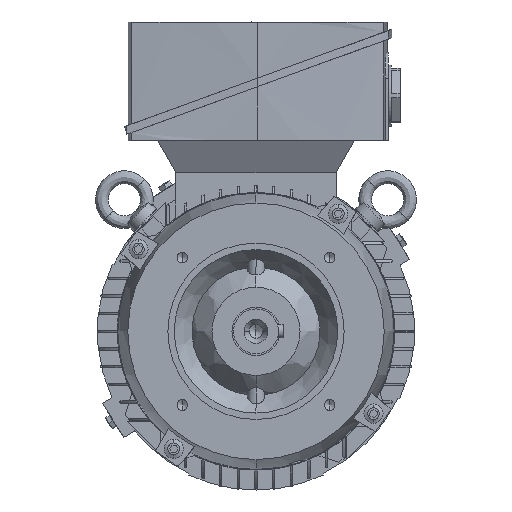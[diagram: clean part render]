
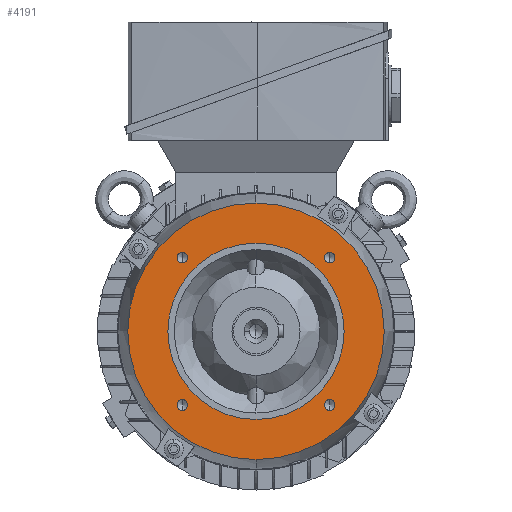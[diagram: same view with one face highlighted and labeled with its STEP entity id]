
A CAD part, left-side view. The second image highlights one B-rep face of the part: STEP entity #4191.
In plain terms, the highlighted planar face has unit normal (-1, 0, 0).
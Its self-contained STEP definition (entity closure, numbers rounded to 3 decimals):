
#1315 = VERTEX_POINT ( 'NONE', #28011 ) ;
#1544 = CARTESIAN_POINT ( 'NONE',  ( -40.5, -45.962, -45.962 ) ) ;
#1593 = DIRECTION ( 'NONE',  ( 1., 0., 0. ) ) ;
#1663 = DIRECTION ( 'NONE',  ( 0., 0., -1. ) ) ;
#2089 = EDGE_CURVE ( 'NONE', #5454, #9584, #31648, .T. ) ;
#4065 = ORIENTED_EDGE ( 'NONE', *, *, #23832, .T. ) ;
#4191 = ADVANCED_FACE ( 'NONE', ( #11990, #14347, #8338, #11494, #10056, #10017 ), #22977, .T. ) ;
#4295 = ORIENTED_EDGE ( 'NONE', *, *, #10546, .F. ) ;
#4409 = EDGE_LOOP ( 'NONE', ( #4065, #5353 ) ) ;
#4645 = DIRECTION ( 'NONE',  ( 0., 0., -1. ) ) ;
#4693 = DIRECTION ( 'NONE',  ( 1., 0., 0. ) ) ;
#4727 = CARTESIAN_POINT ( 'NONE',  ( -40.5, -45.962, 45.962 ) ) ;
#4744 = CARTESIAN_POINT ( 'NONE',  ( -40.5, -45.962, -45.962 ) ) ;
#5307 = EDGE_LOOP ( 'NONE', ( #23512, #32421 ) ) ;
#5353 = ORIENTED_EDGE ( 'NONE', *, *, #37461, .T. ) ;
#5454 = VERTEX_POINT ( 'NONE', #40129 ) ;
#5903 = DIRECTION ( 'NONE',  ( 1., 0., 0. ) ) ;
#6245 = ORIENTED_EDGE ( 'NONE', *, *, #20953, .T. ) ;
#6329 = DIRECTION ( 'NONE',  ( 0., 0., -1. ) ) ;
#6608 = ORIENTED_EDGE ( 'NONE', *, *, #24269, .T. ) ;
#7147 = CARTESIAN_POINT ( 'NONE',  ( -40.5, 45.962, -42.637 ) ) ;
#7951 = AXIS2_PLACEMENT_3D ( 'NONE', #20094, #20087, #19977 ) ;
#8266 = CARTESIAN_POINT ( 'NONE',  ( -40.5, 0., 80. ) ) ;
#8338 = FACE_BOUND ( 'NONE', #4409, .T. ) ;
#9105 = CARTESIAN_POINT ( 'NONE',  ( -40.5, 45.962, -49.287 ) ) ;
#9267 = EDGE_LOOP ( 'NONE', ( #37310, #4295 ) ) ;
#9335 = CARTESIAN_POINT ( 'NONE',  ( -40.5, 0., -55. ) ) ;
#9508 = CIRCLE ( 'NONE', #39826, 3.325 ) ;
#9584 = VERTEX_POINT ( 'NONE', #8266 ) ;
#10017 = FACE_BOUND ( 'NONE', #11475, .T. ) ;
#10056 = FACE_BOUND ( 'NONE', #30446, .T. ) ;
#10151 = VERTEX_POINT ( 'NONE', #35643 ) ;
#10196 = CARTESIAN_POINT ( 'NONE',  ( -40.5, 0., 0. ) ) ;
#10546 = EDGE_CURVE ( 'NONE', #9584, #5454, #12232, .T. ) ;
#11475 = EDGE_LOOP ( 'NONE', ( #6608, #30468 ) ) ;
#11494 = FACE_BOUND ( 'NONE', #13429, .T. ) ;
#11990 = FACE_BOUND ( 'NONE', #5307, .T. ) ;
#12191 = DIRECTION ( 'NONE',  ( 0., 0., -1. ) ) ;
#12232 = CIRCLE ( 'NONE', #33587, 80. ) ;
#12238 = DIRECTION ( 'NONE',  ( 1., 0., 0. ) ) ;
#12249 = CARTESIAN_POINT ( 'NONE',  ( -40.5, 0., 0. ) ) ;
#12653 = VERTEX_POINT ( 'NONE', #7147 ) ;
#12666 = DIRECTION ( 'NONE',  ( 1., 0., 0. ) ) ;
#12669 = CIRCLE ( 'NONE', #22657, 3.325 ) ;
#12672 = CARTESIAN_POINT ( 'NONE',  ( -40.5, 45.962, 42.637 ) ) ;
#12914 = DIRECTION ( 'NONE',  ( 0., 0., 1. ) ) ;
#13429 = EDGE_LOOP ( 'NONE', ( #33755, #6245 ) ) ;
#13935 = ORIENTED_EDGE ( 'NONE', *, *, #24519, .T. ) ;
#14347 = FACE_OUTER_BOUND ( 'NONE', #9267, .T. ) ;
#14965 = AXIS2_PLACEMENT_3D ( 'NONE', #12249, #12238, #12191 ) ;
#15796 = ORIENTED_EDGE ( 'NONE', *, *, #20803, .T. ) ;
#16043 = EDGE_CURVE ( 'NONE', #17093, #35461, #26028, .T. ) ;
#16293 = VERTEX_POINT ( 'NONE', #12672 ) ;
#17093 = VERTEX_POINT ( 'NONE', #9335 ) ;
#17427 = VERTEX_POINT ( 'NONE', #33838 ) ;
#17855 = AXIS2_PLACEMENT_3D ( 'NONE', #22898, #22808, #22715 ) ;
#18140 = DIRECTION ( 'NONE',  ( 1., 0., 0. ) ) ;
#18274 = AXIS2_PLACEMENT_3D ( 'NONE', #10196, #12666, #12914 ) ;
#19977 = DIRECTION ( 'NONE',  ( 0., 0., 1. ) ) ;
#20074 = DIRECTION ( 'NONE',  ( 0., 0., -1. ) ) ;
#20087 = DIRECTION ( 'NONE',  ( 1., 0., 0. ) ) ;
#20094 = CARTESIAN_POINT ( 'NONE',  ( -40.5, 0., 0. ) ) ;
#20121 = EDGE_CURVE ( 'NONE', #35006, #30870, #40833, .T. ) ;
#20123 = DIRECTION ( 'NONE',  ( 1., 0., 0. ) ) ;
#20149 = CARTESIAN_POINT ( 'NONE',  ( -40.5, 45.962, 45.962 ) ) ;
#20704 = CIRCLE ( 'NONE', #23749, 3.325 ) ;
#20803 = EDGE_CURVE ( 'NONE', #17427, #10151, #9508, .T. ) ;
#20953 = EDGE_CURVE ( 'NONE', #12653, #29083, #34657, .T. ) ;
#21217 = AXIS2_PLACEMENT_3D ( 'NONE', #22114, #22077, #22035 ) ;
#22035 = DIRECTION ( 'NONE',  ( 0., 0., 1. ) ) ;
#22077 = DIRECTION ( 'NONE',  ( -1., 0., 0. ) ) ;
#22114 = CARTESIAN_POINT ( 'NONE',  ( -40.5, 0., 67.5 ) ) ;
#22657 = AXIS2_PLACEMENT_3D ( 'NONE', #23816, #18140, #36524 ) ;
#22715 = DIRECTION ( 'NONE',  ( 0., 0., -1. ) ) ;
#22808 = DIRECTION ( 'NONE',  ( 1., 0., 0. ) ) ;
#22898 = CARTESIAN_POINT ( 'NONE',  ( -40.5, 45.962, -45.962 ) ) ;
#22977 = PLANE ( 'NONE',  #21217 ) ;
#23310 = CIRCLE ( 'NONE', #24288, 3.325 ) ;
#23512 = ORIENTED_EDGE ( 'NONE', *, *, #39224, .T. ) ;
#23749 = AXIS2_PLACEMENT_3D ( 'NONE', #1544, #1593, #1663 ) ;
#23816 = CARTESIAN_POINT ( 'NONE',  ( -40.5, 45.962, 45.962 ) ) ;
#23832 = EDGE_CURVE ( 'NONE', #16293, #1315, #32205, .T. ) ;
#24269 = EDGE_CURVE ( 'NONE', #30870, #35006, #23310, .T. ) ;
#24288 = AXIS2_PLACEMENT_3D ( 'NONE', #4727, #4693, #4645 ) ;
#24361 = CARTESIAN_POINT ( 'NONE',  ( -40.5, -45.962, 45.962 ) ) ;
#24475 = CARTESIAN_POINT ( 'NONE',  ( -40.5, -45.962, 42.637 ) ) ;
#24519 = EDGE_CURVE ( 'NONE', #10151, #17427, #20704, .T. ) ;
#24548 = DIRECTION ( 'NONE',  ( 1., 0., 0. ) ) ;
#25072 = DIRECTION ( 'NONE',  ( 0., 0., -1. ) ) ;
#25456 = CIRCLE ( 'NONE', #17855, 3.325 ) ;
#26028 = CIRCLE ( 'NONE', #7951, 55. ) ;
#26265 = AXIS2_PLACEMENT_3D ( 'NONE', #20149, #20123, #20074 ) ;
#26314 = EDGE_CURVE ( 'NONE', #29083, #12653, #25456, .T. ) ;
#27168 = DIRECTION ( 'NONE',  ( 0., 0., -1. ) ) ;
#27222 = DIRECTION ( 'NONE',  ( 1., 0., 0. ) ) ;
#27255 = CARTESIAN_POINT ( 'NONE',  ( -40.5, 0., 0. ) ) ;
#27311 = AXIS2_PLACEMENT_3D ( 'NONE', #24361, #24548, #25072 ) ;
#28011 = CARTESIAN_POINT ( 'NONE',  ( -40.5, 45.962, 49.287 ) ) ;
#29083 = VERTEX_POINT ( 'NONE', #9105 ) ;
#29664 = CARTESIAN_POINT ( 'NONE',  ( -40.5, -45.962, 49.287 ) ) ;
#30446 = EDGE_LOOP ( 'NONE', ( #15796, #13935 ) ) ;
#30468 = ORIENTED_EDGE ( 'NONE', *, *, #20121, .T. ) ;
#30870 = VERTEX_POINT ( 'NONE', #24475 ) ;
#31648 = CIRCLE ( 'NONE', #14965, 80. ) ;
#32205 = CIRCLE ( 'NONE', #26265, 3.325 ) ;
#32362 = CARTESIAN_POINT ( 'NONE',  ( -40.5, 45.962, -45.962 ) ) ;
#32421 = ORIENTED_EDGE ( 'NONE', *, *, #16043, .T. ) ;
#33587 = AXIS2_PLACEMENT_3D ( 'NONE', #27255, #27222, #27168 ) ;
#33755 = ORIENTED_EDGE ( 'NONE', *, *, #26314, .T. ) ;
#33838 = CARTESIAN_POINT ( 'NONE',  ( -40.5, -45.962, -49.287 ) ) ;
#34657 = CIRCLE ( 'NONE', #38525, 3.325 ) ;
#34769 = CARTESIAN_POINT ( 'NONE',  ( -40.5, 0., 55. ) ) ;
#35006 = VERTEX_POINT ( 'NONE', #29664 ) ;
#35461 = VERTEX_POINT ( 'NONE', #34769 ) ;
#35643 = CARTESIAN_POINT ( 'NONE',  ( -40.5, -45.962, -42.637 ) ) ;
#36524 = DIRECTION ( 'NONE',  ( 0., 0., -1. ) ) ;
#37032 = CIRCLE ( 'NONE', #18274, 55. ) ;
#37310 = ORIENTED_EDGE ( 'NONE', *, *, #2089, .F. ) ;
#37461 = EDGE_CURVE ( 'NONE', #1315, #16293, #12669, .T. ) ;
#38525 = AXIS2_PLACEMENT_3D ( 'NONE', #32362, #40204, #40357 ) ;
#39224 = EDGE_CURVE ( 'NONE', #35461, #17093, #37032, .T. ) ;
#39826 = AXIS2_PLACEMENT_3D ( 'NONE', #4744, #5903, #6329 ) ;
#40129 = CARTESIAN_POINT ( 'NONE',  ( -40.5, 0., -80. ) ) ;
#40204 = DIRECTION ( 'NONE',  ( 1., 0., 0. ) ) ;
#40357 = DIRECTION ( 'NONE',  ( 0., 0., -1. ) ) ;
#40833 = CIRCLE ( 'NONE', #27311, 3.325 ) ;
